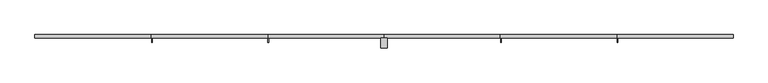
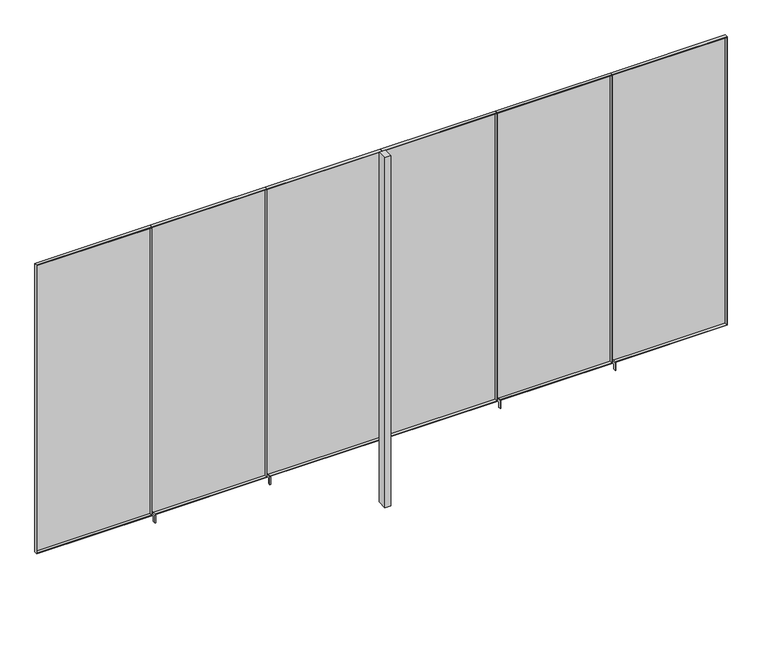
"""IFC4 building model written with IfcOpenShell, lengths in millimetres: furniture geometry, H105 Reja 6 módulos : H105.1 Reja 6 módulos 690x310."""

import ifcopenshell
import ifcopenshell.guid

model = None  # the IFC model being written
_history = None  # IfcOwnerHistory: only IFC2X3 demands one
_inside = {}  # id of a spatial element -> (the spatial element, [elements in it])
_under = {}  # id of a project, library or spatial element -> (it, [spatial elements below it])
_declared = {}  # id of a project -> (the project, [libraries it declares])
_typed = {}  # id of a type object -> (the type object, [elements of that type])
_made_of = {}  # id of a material, layer set ... -> (it, [elements and type objects made of it])


def new_model(schema):
    """Start an empty IFC model of exactly this schema.

    Asked for "IFC4X3", IfcOpenShell would pick the latest addendum, in which some entities
    have other attributes; the version numbers below select the first issue.
    IFC2X3 requires an IfcOwnerHistory on every rooted entity: one is made here for all.
    """
    global model, _history
    if schema == "IFC4X3":
        model = ifcopenshell.file(schema_version=(4, 3, 0, 0))
    else:
        model = ifcopenshell.file(schema=schema)
    _inside.clear()
    _under.clear()
    _declared.clear()
    _typed.clear()
    _made_of.clear()
    _history = None
    if model.schema == "IFC2X3":
        org = make("IfcOrganization", Name="unknown")
        user = make(
            "IfcPersonAndOrganization",
            ThePerson=make("IfcPerson", FamilyName="unknown"),
            TheOrganization=org,
        )
        app = make(
            "IfcApplication",
            ApplicationDeveloper=org,
            Version="unknown",
            ApplicationFullName="unknown",
            ApplicationIdentifier="unknown",
        )
        _history = make(
            "IfcOwnerHistory",
            OwningUser=user,
            OwningApplication=app,
            ChangeAction="ADDED",
            CreationDate=0,
        )
    return model


def make(cls, **values):
    """One entity of the class cls with the attributes given. An attribute that is None is left unset."""
    return model.create_entity(
        cls, **{name: value for name, value in values.items() if value is not None}
    )


def rooted(cls, **values):
    """An entity with a GlobalId (a new one), such as an element, a storey or a relation."""
    return make(cls, GlobalId=ifcopenshell.guid.new(), OwnerHistory=_history, **values)


def si_unit(unit_type, name, prefix=None):
    """IfcSIUnit, for example si_unit("LENGTHUNIT", "METRE", prefix="MILLI")."""
    return make("IfcSIUnit", UnitType=unit_type, Prefix=prefix, Name=name)


def assignment(units):
    """IfcUnitAssignment: the units of a project."""
    return None if units is None else make("IfcUnitAssignment", Units=units)


def point(xyz):
    """IfcCartesianPoint."""
    return None if xyz is None else make("IfcCartesianPoint", Coordinates=xyz)


def direction(xyz):
    """IfcDirection."""
    return None if xyz is None else make("IfcDirection", DirectionRatios=xyz)


def frame(location, z_axis=None, x_axis=None):
    """IfcAxis2Placement3D, a coordinate frame: its origin and axes. An axis left out is left unset."""
    return make(
        "IfcAxis2Placement3D",
        Location=point(location),
        Axis=direction(z_axis),
        RefDirection=direction(x_axis),
    )


def origin():
    """The frame at (0, 0, 0) with its axes left unset."""
    return frame((0.0, 0.0, 0.0))


def place(relative_to, where):
    """IfcLocalPlacement: puts the frame where relative to a parent placement (None: the world)."""
    return make(
        "IfcLocalPlacement", PlacementRelTo=relative_to, RelativePlacement=where
    )


def context(
    kind, dimensions, precision=None, world=None, true_north=None, identifier=None
):
    """IfcGeometricRepresentationContext, for example the 3D "Model" context."""
    return make(
        "IfcGeometricRepresentationContext",
        ContextIdentifier=identifier,
        ContextType=kind,
        CoordinateSpaceDimension=dimensions,
        Precision=precision,
        WorldCoordinateSystem=world,
        TrueNorth=true_north,
    )


def project(units=None, contexts=None):
    """IfcProject with its units and contexts."""
    return rooted(
        "IfcProject",
        Name="project",
        RepresentationContexts=contexts,
        UnitsInContext=assignment(units),
    )


def spatial(cls, under=None, at=None, **own):
    """A site, building, storey or space (cls), placed at a placement, below another one or the project."""
    s = rooted(cls, ObjectPlacement=at, **own)
    if under is not None:
        _under.setdefault(under.id(), (under, []))[1].append(s)
    return s


def polyline(points):
    """IfcPolyline through the points."""
    return make("IfcPolyline", Points=[point(p) for p in points])


def outline(outer, holes=None, kind="AREA"):
    """IfcArbitraryClosedProfileDef: a profile drawn as a closed curve; with holes, ...WithVoids."""
    if holes is None:
        return make("IfcArbitraryClosedProfileDef", ProfileType=kind, OuterCurve=outer)
    return make(
        "IfcArbitraryProfileDefWithVoids",
        ProfileType=kind,
        OuterCurve=outer,
        InnerCurves=holes,
    )


def extrude(swept, where, along, depth):
    """IfcExtrudedAreaSolid: the profile swept, set in the frame where, extruded along a direction by depth."""
    return make(
        "IfcExtrudedAreaSolid",
        SweptArea=swept,
        Position=where,
        ExtrudedDirection=direction(along),
        Depth=depth,
    )


def shape(context_of_items, identifier, shape_type, items):
    """IfcShapeRepresentation: the items that make up one representation, for example the "Body"."""
    return make(
        "IfcShapeRepresentation",
        ContextOfItems=context_of_items,
        RepresentationIdentifier=identifier,
        RepresentationType=shape_type,
        Items=items,
    )


def source(mapping_origin, context_of_items, identifier, shape_type, items):
    """IfcRepresentationMap: a shape defined once, which mapped items show again and again."""
    return make(
        "IfcRepresentationMap",
        MappingOrigin=mapping_origin,
        MappedRepresentation=shape(context_of_items, identifier, shape_type, items),
    )


def transform(
    local_origin,
    x_axis=None,
    y_axis=None,
    z_axis=None,
    scale=None,
    scale2=None,
    scale3=None,
    uniform=True,
):
    """IfcCartesianTransformationOperator3D, or its non-uniform kind. x_axis, y_axis, z_axis: its Axis1, 2, 3."""
    if uniform:
        return make(
            "IfcCartesianTransformationOperator3D",
            Axis1=direction(x_axis),
            Axis2=direction(y_axis),
            LocalOrigin=point(local_origin),
            Scale=scale,
            Axis3=direction(z_axis),
        )
    return make(
        "IfcCartesianTransformationOperator3DnonUniform",
        Axis1=direction(x_axis),
        Axis2=direction(y_axis),
        LocalOrigin=point(local_origin),
        Scale=scale,
        Axis3=direction(z_axis),
        Scale2=scale2,
        Scale3=scale3,
    )


def mapped(mapping_source, mapping_target):
    """IfcMappedItem: shows the shape of a source again, moved by a transform."""
    return make(
        "IfcMappedItem", MappingSource=mapping_source, MappingTarget=mapping_target
    )


def made_of(thing, what):
    """Note that an element or type object is made of a material, layer set ...; save() writes the relation."""
    if what is not None:
        _made_of.setdefault(what.id(), (what, []))[1].append(thing)
    return thing


def element(
    cls,
    number,
    at=None,
    inside=None,
    cuts=None,
    type_object=None,
    material=None,
    context=None,
    identifier="Body",
    shape_type=None,
    held_by="IfcProductDefinitionShape",
    body=None,
    shapes=None,
    **own,
):
    """One element of the class cls, such as IfcWall. Its Tag is "e" and its number.

    at: its placement. inside: the storey or other place that contains it. cuts: it is an
    opening in that element (IfcRelVoidsElement). A single representation is given by context,
    identifier, shape_type and body (its items); several are given by shapes. held_by: the class
    of the entity that holds the representations. save() writes the other relations.
    """
    e = rooted(cls, Tag="e%d" % number, ObjectPlacement=at, **own)
    if body is not None:
        shapes = [shape(context, identifier, shape_type, body)]
    if shapes is not None:
        e.Representation = make(held_by, Representations=shapes)
    if inside is not None:
        _inside.setdefault(inside.id(), (inside, []))[1].append(e)
    if cuts is not None:
        rooted(
            "IfcRelVoidsElement", RelatingBuildingElement=cuts, RelatedOpeningElement=e
        )
    if type_object is not None:
        _typed.setdefault(type_object.id(), (type_object, []))[1].append(e)
    return made_of(e, material)


def aggregate(whole, parts):
    """IfcRelAggregates: a whole, such as a stair, and the parts it consists of."""
    return rooted("IfcRelAggregates", RelatingObject=whole, RelatedObjects=parts)


def save(model, path):
    """Write the relations noted so far, then the file.

    IfcRelAggregates (storeys below a building ...), IfcRelContainedInSpatialStructure (elements
    in a storey), IfcRelDefinesByType, IfcRelAssociatesMaterial and IfcRelDeclares: one each for
    every whole, place, type object, material and project.
    """
    for whole, parts in _under.values():
        aggregate(whole, parts)
    for where, things in _inside.values():
        rooted(
            "IfcRelContainedInSpatialStructure",
            RelatedElements=things,
            RelatingStructure=where,
        )
    for kind, things in _typed.values():
        rooted("IfcRelDefinesByType", RelatedObjects=things, RelatingType=kind)
    for what, things in _made_of.values():
        rooted("IfcRelAssociatesMaterial", RelatedObjects=things, RelatingMaterial=what)
    for by, libraries in _declared.values():
        rooted("IfcRelDeclares", RelatingContext=by, RelatedDefinitions=libraries)
    model.write(path)


def furniture_f63c7d66(model_context):
    return source(origin(), model_context, "Body", "SweptSolid", [
        extrude(outline(polyline([(1224.7003264, 468.0), (1164.7003264, 468.0), (1164.7003264, 568.0), (1224.7003264, 568.0), (1224.7003264, 468.0)])), frame((0.0, 0.0, -600.0), z_axis=(0.0, 0.0, 1.0), x_axis=(1.0, 0.0, 0.0)), (0.0, 0.0, 1.0), 3700.0),
        extrude(outline(polyline([(3100.0, 3494.7003264), (3100.0, 2344.7003264), (50.0, 2344.7003264), (50.0, 3494.7003264), (3100.0, 3494.7003264)]), holes=[polyline([(3093.0, 3491.2003264), (57.0, 3491.2003264), (57.0, 2348.2003264), (3093.0, 2348.2003264), (3093.0, 3491.2003264)])]), frame((0.0, 568.0, 0.0), z_axis=(0.0, 1.0, 0.0), x_axis=(0.0, 0.0, 1.0)), (0.0, 0.0, 1.0), 32.0),
        extrude(outline(polyline([(3491.2003264, 600.0), (3491.2003264, 597.0), (2348.2003264, 597.0), (2348.2003264, 600.0), (3491.2003264, 600.0)])), frame((0.0, 0.0, 57.0), z_axis=(0.0, 0.0, 1.0), x_axis=(1.0, 0.0, 0.0)), (0.0, 0.0, 1.0), 3036.0),
        extrude(outline(polyline([(3100.0, 2344.7003264), (3100.0, 1194.7003264), (50.0, 1194.7003264), (50.0, 2344.7003264), (3100.0, 2344.7003264)]), holes=[polyline([(3093.0, 2341.2003264), (57.0, 2341.2003264), (57.0, 1198.2003264), (3093.0, 1198.2003264), (3093.0, 2341.2003264)])]), frame((0.0, 568.0, 0.0), z_axis=(0.0, 1.0, 0.0), x_axis=(0.0, 0.0, 1.0)), (0.0, 0.0, 1.0), 32.0),
        extrude(outline(polyline([(2341.2003264, 600.0), (2341.2003264, 597.0), (1198.2003264, 597.0), (1198.2003264, 600.0), (2341.2003264, 600.0)])), frame((0.0, 0.0, 57.0), z_axis=(0.0, 0.0, 1.0), x_axis=(1.0, 0.0, 0.0)), (0.0, 0.0, 1.0), 3036.0),
        extrude(outline(polyline([(3100.0, 44.7003264), (3100.0, -1105.2996736), (50.0, -1105.2996736), (50.0, 44.7003264), (3100.0, 44.7003264)]), holes=[polyline([(3093.0, 41.2003264), (57.0, 41.2003264), (57.0, -1101.7996736), (3093.0, -1101.7996736), (3093.0, 41.2003264)])]), frame((0.0, 568.0, 0.0), z_axis=(0.0, 1.0, 0.0), x_axis=(0.0, 0.0, 1.0)), (0.0, 0.0, 1.0), 32.0),
        extrude(outline(polyline([(4637.7003264, 600.0), (4637.7003264, 597.0), (3498.2003264, 597.0), (3498.2003264, 600.0), (4637.7003264, 600.0)])), frame((0.0, 0.0, 57.0), z_axis=(0.0, 0.0, 1.0), x_axis=(1.0, 0.0, 0.0)), (0.0, 0.0, 1.0), 3036.0),
        extrude(outline(polyline([(3100.0, 4644.7003264), (3100.0, 3494.7003264), (50.0, 3494.7003264), (50.0, 4644.7003264), (3100.0, 4644.7003264)]), holes=[polyline([(3093.0, 4637.7003264), (57.0, 4637.7003264), (57.0, 3498.2003264), (3093.0, 3498.2003264), (3093.0, 4637.7003264)])]), frame((0.0, 568.0, 0.0), z_axis=(0.0, 1.0, 0.0), x_axis=(0.0, 0.0, 1.0)), (0.0, 0.0, 1.0), 32.0),
        extrude(outline(polyline([(1191.2003264, 600.0), (1191.2003264, 597.0), (48.2003264, 597.0), (48.2003264, 600.0), (1191.2003264, 600.0)])), frame((0.0, 0.0, 57.0), z_axis=(0.0, 0.0, 1.0), x_axis=(1.0, 0.0, 0.0)), (0.0, 0.0, 1.0), 3036.0),
        extrude(outline(polyline([(3100.0, 1194.7003264), (3100.0, 44.7003264), (50.0, 44.7003264), (50.0, 1194.7003264), (3100.0, 1194.7003264)]), holes=[polyline([(3093.0, 1191.2003264), (57.0, 1191.2003264), (57.0, 48.2003264), (3093.0, 48.2003264), (3093.0, 1191.2003264)])]), frame((0.0, 568.0, 0.0), z_axis=(0.0, 1.0, 0.0), x_axis=(0.0, 0.0, 1.0)), (0.0, 0.0, 1.0), 32.0),
        extrude(outline(polyline([(41.2003264, 600.0), (41.2003264, 597.0), (-1101.7996736, 597.0), (-1101.7996736, 600.0), (41.2003264, 600.0)])), frame((0.0, 0.0, 57.0), z_axis=(0.0, 0.0, 1.0), x_axis=(1.0, 0.0, 0.0)), (0.0, 0.0, 1.0), 3036.0),
        extrude(outline(polyline([(-1108.7996736, 600.0), (-1108.7996736, 597.0), (-2248.2996736, 597.0), (-2248.2996736, 600.0), (-1108.7996736, 600.0)])), frame((0.0, 0.0, 57.0), z_axis=(0.0, 0.0, 1.0), x_axis=(1.0, 0.0, 0.0)), (0.0, 0.0, 1.0), 3036.0),
        extrude(outline(polyline([(3100.0, -1105.2996736), (3100.0, -2255.2996736), (50.0, -2255.2996736), (50.0, -1105.2996736), (3100.0, -1105.2996736)]), holes=[polyline([(3093.0, -1108.7996736), (57.0, -1108.7996736), (57.0, -2248.2996736), (3093.0, -2248.2996736), (3093.0, -1108.7996736)])]), frame((0.0, 568.0, 0.0), z_axis=(0.0, 1.0, 0.0), x_axis=(0.0, 0.0, 1.0)), (0.0, 0.0, 1.0), 32.0),
        extrude(outline(polyline([(522.0, 82.0), (597.0, 82.0), (597.0, 57.0), (547.0, 57.0), (547.0, 0.0), (522.0, 0.0), (522.0, 82.0)])), frame((2348.2003264, 0.0, 0.0), z_axis=(1.0, 0.0, 0.0), x_axis=(0.0, 1.0, 0.0)), (0.0, 0.0, 1.0), 7.0),
        extrude(outline(polyline([(522.0, 82.0), (597.0, 82.0), (597.0, 57.0), (547.0, 57.0), (547.0, 0.0), (522.0, 0.0), (522.0, 82.0)])), frame((3498.2003264, 0.0, 0.0), z_axis=(1.0, 0.0, 0.0), x_axis=(0.0, 1.0, 0.0)), (0.0, 0.0, 1.0), 7.0),
        extrude(outline(polyline([(522.0, 82.0), (597.0, 82.0), (597.0, 57.0), (547.0, 57.0), (547.0, 0.0), (522.0, 0.0), (522.0, 82.0)])), frame((-1101.7996736, 0.0, 0.0), z_axis=(1.0, 0.0, 0.0), x_axis=(0.0, 1.0, 0.0)), (0.0, 0.0, 1.0), 7.0),
        extrude(outline(polyline([(522.0, 82.0), (597.0, 82.0), (597.0, 57.0), (547.0, 57.0), (547.0, 0.0), (522.0, 0.0), (522.0, 82.0)])), frame((48.2003264, 0.0, 0.0), z_axis=(1.0, 0.0, 0.0), x_axis=(0.0, 1.0, 0.0)), (0.0, 0.0, 1.0), 7.0),
    ])


if __name__ == "__main__":
    model = new_model("IFC4")
    model_context = context("Model", 3, world=origin())
    ifc_project = project(units=[si_unit("LENGTHUNIT", "METRE", prefix="MILLI")], contexts=[model_context])
    site = spatial("IfcSite", under=ifc_project)
    building = spatial("IfcBuilding", under=site)
    placement = place(None, origin())
    furniture_shape = furniture_f63c7d66(model_context)
    element("IfcFurniture", 1, ObjectType="H105 Reja 6 módulos : H105.1 Reja 6 módulos 690x310", at=placement, inside=building, context=model_context, shape_type="MappedRepresentation", body=[
        mapped(furniture_shape, transform((0.0, 0.0, 0.0), x_axis=(1.0, 0.0, 0.0), y_axis=(0.0, 1.0, 0.0), z_axis=(0.0, 0.0, 1.0))),
    ])
    save(model, "model.ifc")
